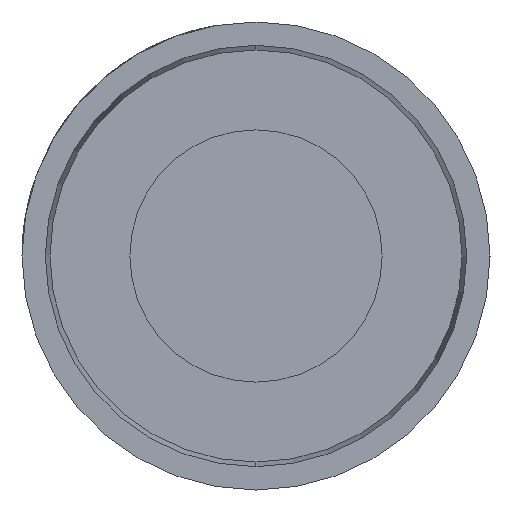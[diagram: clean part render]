
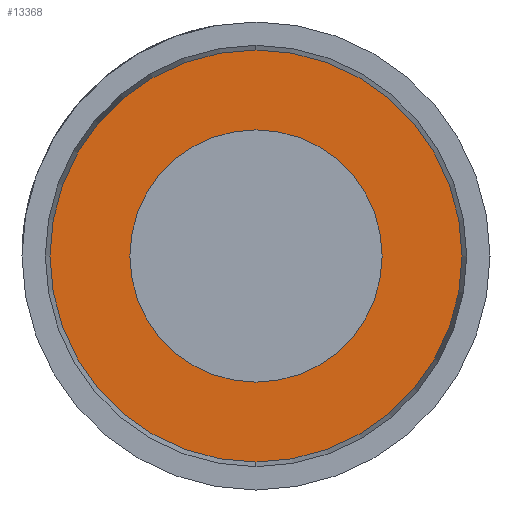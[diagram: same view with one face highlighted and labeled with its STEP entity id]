
A CAD part, left-side view. The second image highlights one B-rep face of the part: STEP entity #13368.
In plain terms, the highlighted planar face has unit normal (-1, 0, 0).
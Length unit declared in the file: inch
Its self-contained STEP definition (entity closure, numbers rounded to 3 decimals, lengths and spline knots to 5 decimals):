
#177 = CARTESIAN_POINT ( 'NONE',  ( 0., 0., -0.0825 ) ) ;
#1688 = CIRCLE ( 'NONE', #14831, 0.0505 ) ;
#2676 = DIRECTION ( 'NONE',  ( -1., 0., 0. ) ) ;
#2958 = VERTEX_POINT ( 'NONE', #13451 ) ;
#3089 = ORIENTED_EDGE ( 'NONE', *, *, #4837, .F. ) ;
#4657 = DIRECTION ( 'NONE',  ( 0., 0., -1. ) ) ;
#4813 = CARTESIAN_POINT ( 'NONE',  ( 0., 0., 0. ) ) ;
#4837 = EDGE_CURVE ( 'NONE', #12235, #19341, #7339, .T. ) ;
#4845 = FACE_BOUND ( 'NONE', #13837, .T. ) ;
#5243 = CARTESIAN_POINT ( 'NONE',  ( 0., 0., 0. ) ) ;
#5569 = ORIENTED_EDGE ( 'NONE', *, *, #16292, .F. ) ;
#5862 = CARTESIAN_POINT ( 'NONE',  ( 0., 0., 0.0505 ) ) ;
#6274 = CARTESIAN_POINT ( 'NONE',  ( 0., 0., 0. ) ) ;
#6352 = CARTESIAN_POINT ( 'NONE',  ( 0., 0., -0.0505 ) ) ;
#6513 = DIRECTION ( 'NONE',  ( 1., 0., 0. ) ) ;
#6883 = DIRECTION ( 'NONE',  ( -1., 0., 0. ) ) ;
#7339 = CIRCLE ( 'NONE', #15362, 0.0505 ) ;
#8769 = CIRCLE ( 'NONE', #16141, 0.0825 ) ;
#9142 = DIRECTION ( 'NONE',  ( 0., 0., -1. ) ) ;
#9181 = FACE_OUTER_BOUND ( 'NONE', #11555, .T. ) ;
#9253 = CARTESIAN_POINT ( 'NONE',  ( 0., 0., 0. ) ) ;
#9799 = EDGE_CURVE ( 'NONE', #19341, #12235, #1688, .T. ) ;
#10252 = VERTEX_POINT ( 'NONE', #177 ) ;
#11555 = EDGE_LOOP ( 'NONE', ( #13562, #5569 ) ) ;
#12235 = VERTEX_POINT ( 'NONE', #5862 ) ;
#12247 = CARTESIAN_POINT ( 'NONE',  ( 0., 0., 0. ) ) ;
#12346 = AXIS2_PLACEMENT_3D ( 'NONE', #4813, #17248, #9142 ) ;
#12609 = PLANE ( 'NONE',  #16803 ) ;
#13290 = CIRCLE ( 'NONE', #12346, 0.0825 ) ;
#13325 = DIRECTION ( 'NONE',  ( 0., 0., 1. ) ) ;
#13368 = ADVANCED_FACE ( 'NONE', ( #4845, #9181 ), #12609, .F. ) ;
#13451 = CARTESIAN_POINT ( 'NONE',  ( 0., 0., 0.0825 ) ) ;
#13452 = DIRECTION ( 'NONE',  ( 0., 0., 1. ) ) ;
#13562 = ORIENTED_EDGE ( 'NONE', *, *, #17605, .F. ) ;
#13837 = EDGE_LOOP ( 'NONE', ( #3089, #19458 ) ) ;
#14831 = AXIS2_PLACEMENT_3D ( 'NONE', #12247, #2676, #13452 ) ;
#15362 = AXIS2_PLACEMENT_3D ( 'NONE', #5243, #6883, #13325 ) ;
#16141 = AXIS2_PLACEMENT_3D ( 'NONE', #9253, #6513, #18743 ) ;
#16292 = EDGE_CURVE ( 'NONE', #2958, #10252, #13290, .T. ) ;
#16803 = AXIS2_PLACEMENT_3D ( 'NONE', #6274, #17188, #4657 ) ;
#17188 = DIRECTION ( 'NONE',  ( 1., 0., 0. ) ) ;
#17248 = DIRECTION ( 'NONE',  ( 1., 0., 0. ) ) ;
#17605 = EDGE_CURVE ( 'NONE', #10252, #2958, #8769, .T. ) ;
#18743 = DIRECTION ( 'NONE',  ( 0., 0., -1. ) ) ;
#19341 = VERTEX_POINT ( 'NONE', #6352 ) ;
#19458 = ORIENTED_EDGE ( 'NONE', *, *, #9799, .F. ) ;
